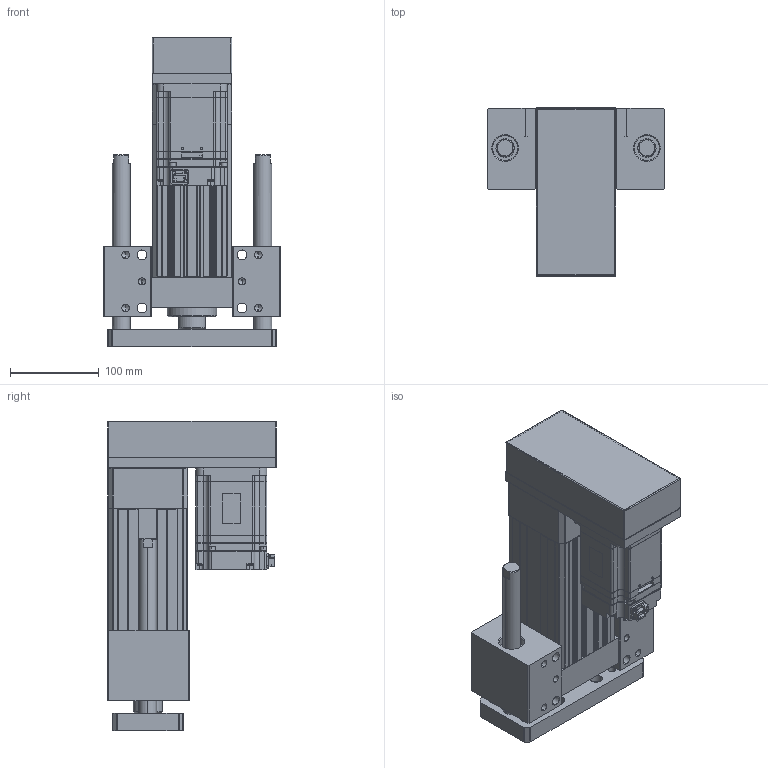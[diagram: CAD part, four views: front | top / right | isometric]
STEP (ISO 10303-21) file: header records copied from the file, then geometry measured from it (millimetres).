
FILE_DESCRIPTION (( 'STEP AP203' ), '1' );
FILE_NAME ('ANS090R-HP050-05(10)(20)-W75.STEP', '2019-03-02T09:29:40', ( 'user' ), ( '' ), 'SwSTEP 2.0', 'SolidWorks 2013', '' );
FILE_SCHEMA (( 'CONFIG_CONTROL_DESIGN' ));
Length unit declared in the file: millimetre
Products named in the file (4): ANS090 ROD ST050-H; ANS090R-HP050-05(10)(20)-W75; ANS090R HP050 VER2; SGMJV_08A_A21
Assembly tree (3 placements, depth 2):
  ANS090R-HP050-05(10)(20)-W75
    ANS090R HP050 VER2
    SGMJV_08A_A21
    ANS090 ROD ST050-H
Bounding box: 200 x 190 x 350 mm (x, y, z)
Volume: 3178985 mm3; surface area: 529712.6 mm2
Topology: 3 solids, 3 shells, 1228 faces, 3234 edges, 2090 vertices
Faces by surface type: plane 688, cylinder 434, cone 94, sphere 8, bspline 4
Entity records: 38470 total; most frequent: CARTESIAN_POINT 7180, DIRECTION 6468, ORIENTED_EDGE 6420, EDGE_CURVE 3210, LINE 2168, VECTOR 2168, AXIS2_PLACEMENT_3D 2150, VERTEX_POINT 2090
